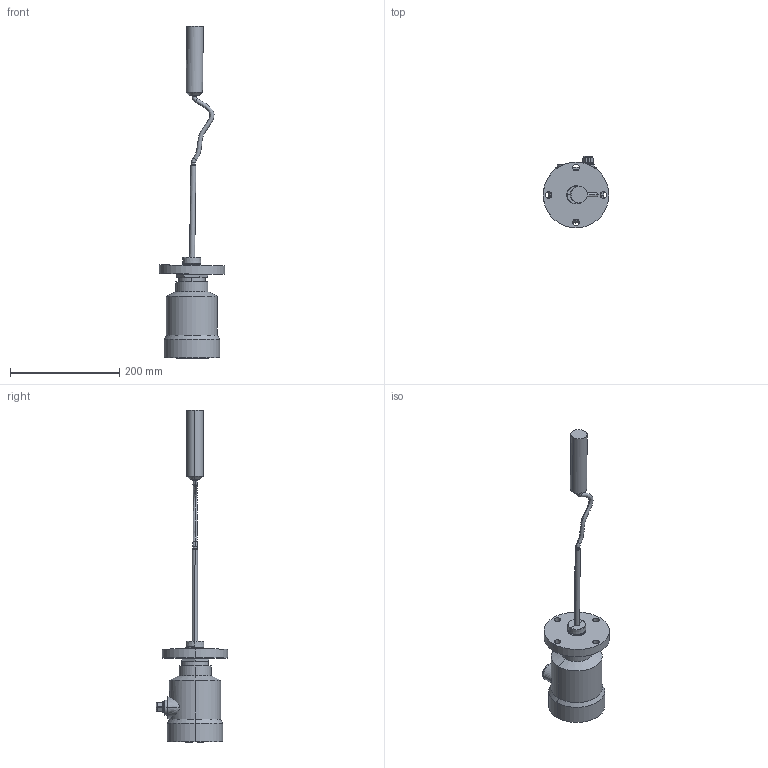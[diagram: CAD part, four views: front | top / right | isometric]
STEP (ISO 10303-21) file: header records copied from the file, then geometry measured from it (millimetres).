
FILE_DESCRIPTION((''),'2;1');
FILE_NAME('703_ASM','2025-12-30T15:28:00',('28740194'),(''),'CREO PARAMETRIC BY PTC INC, 2024063','CREO PARAMETRIC BY PTC INC, 2024063','');
FILE_SCHEMA(('CONFIG_CONTROL_DESIGN'));
Length unit declared in the file: millimetre
Products named in the file (12): 00; EV214_27005336_DUMMY; EV214_27005336_02; EV214_27005336_03; EV214_27005336_04; EV214_27005336_06; EV214_27005336_07; EV214_27005336_ASM; 1; 2; 703_ASM
Assembly tree (11 placements, depth 3):
  703_ASM
    00
    EV214_27005336_ASM
      EV214_27005336_DUMMY
      EV214_27005336_02
      EV214_27005336_03
      EV214_27005336_04
      EV214_27005336_06
      EV214_27005336_07
    1
    2
    00
Bounding box: 120.19 x 131 x 606.45 mm (x, y, z)
Volume: 1261033.8 mm3; surface area: 123130.9 mm2
Topology: 9 solids, 13 shells, 637 faces, 1736 edges, 1147 vertices
Faces by surface type: plane 477, cylinder 96, cone 38, bspline 16, torus 8, extrusion 2
Entity records: 23718 total; most frequent: CARTESIAN_POINT 7162, ORIENTED_EDGE 3448, DIRECTION 3300, EDGE_CURVE 1732, VECTOR 1306, LINE 1304, VERTEX_POINT 1146, AXIS2_PLACEMENT_3D 997
